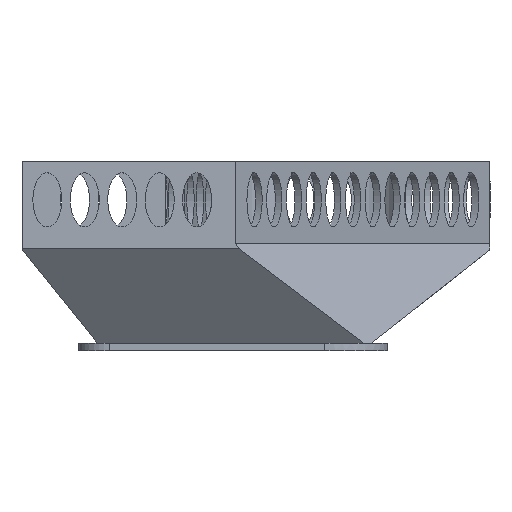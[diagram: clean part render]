
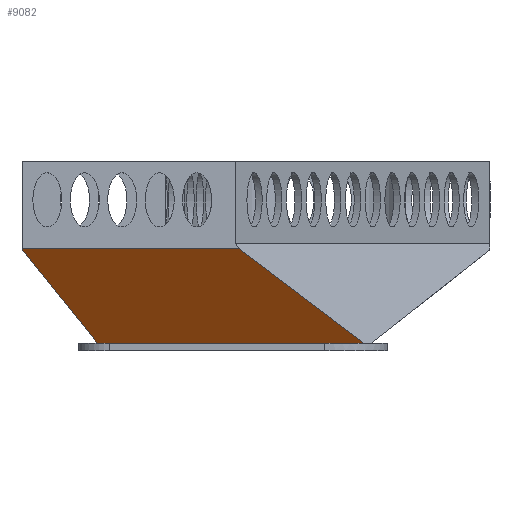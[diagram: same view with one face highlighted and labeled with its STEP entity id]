
A CAD part, left-side view. The second image highlights one B-rep face of the part: STEP entity #9082.
In plain terms, the highlighted planar face has unit normal (-0.788, 0, -0.615).
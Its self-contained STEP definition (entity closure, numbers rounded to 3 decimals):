
#1753=ORIENTED_EDGE('',*,*,#3716,.T.);
#1754=ORIENTED_EDGE('',*,*,#3717,.F.);
#1755=ORIENTED_EDGE('',*,*,#3718,.F.);
#1756=ORIENTED_EDGE('',*,*,#3709,.F.);
#1757=ORIENTED_EDGE('',*,*,#3719,.T.);
#1758=ORIENTED_EDGE('',*,*,#3705,.T.);
#3705=EDGE_CURVE('',#4776,#4777,#5475,.T.);
#3709=EDGE_CURVE('',#4781,#4779,#5479,.T.);
#3716=EDGE_CURVE('',#4777,#4785,#5484,.F.);
#3717=EDGE_CURVE('',#4786,#4785,#5485,.T.);
#3718=EDGE_CURVE('',#4779,#4786,#5486,.T.);
#3719=EDGE_CURVE('',#4781,#4776,#5487,.T.);
#4776=VERTEX_POINT('',#14028);
#4777=VERTEX_POINT('',#14030);
#4779=VERTEX_POINT('',#14035);
#4781=VERTEX_POINT('',#14039);
#4785=VERTEX_POINT('',#14052);
#4786=VERTEX_POINT('',#14056);
#5475=LINE('',#14031,#5960);
#5479=LINE('',#14040,#5964);
#5484=LINE('',#14053,#5969);
#5485=LINE('',#14055,#5970);
#5486=LINE('',#14057,#5971);
#5487=LINE('',#14058,#5972);
#5960=VECTOR('',#11434,1000.);
#5964=VECTOR('',#11440,1000.);
#5969=VECTOR('',#11453,1000.);
#5970=VECTOR('',#11456,1000.);
#5971=VECTOR('',#11457,1000.);
#5972=VECTOR('',#11458,1000.);
#6746=EDGE_LOOP('',(#1753,#1754,#1755,#1756,#1757,#1758));
#8009=FACE_BOUND('',#6746,.T.);
#8821=PLANE('',#9847);
#9082=ADVANCED_FACE('',(#8009),#8821,.T.);
#9847=AXIS2_PLACEMENT_3D('',#14054,#11454,#11455);
#11434=DIRECTION('',(0.,-1.,0.));
#11440=DIRECTION('',(-0.52,0.534,0.667));
#11453=DIRECTION('',(0.426,-0.721,-0.546));
#11454=DIRECTION('',(-0.789,0.,-0.615));
#11455=DIRECTION('',(-0.615,0.,0.789));
#11456=DIRECTION('',(0.,-1.,0.));
#11457=DIRECTION('',(-0.615,0.,0.789));
#11458=DIRECTION('',(0.,-1.,0.));
#14028=CARTESIAN_POINT('',(-204.72,-36.422,0.));
#14030=CARTESIAN_POINT('',(-204.72,-37.897,0.));
#14031=CARTESIAN_POINT('',(-204.72,0.,0.));
#14035=CARTESIAN_POINT('',(-223.673,50.42,24.298));
#14039=CARTESIAN_POINT('',(-204.72,30.982,0.));
#14040=CARTESIAN_POINT('',(-140.726,-34.653,-82.044));
#14052=CARTESIAN_POINT('',(-223.684,-5.805,24.312));
#14053=CARTESIAN_POINT('',(-179.194,-81.095,-32.726));
#14054=CARTESIAN_POINT('',(-127.282,0.,-99.28));
#14055=CARTESIAN_POINT('',(-223.684,-3.58,24.312));
#14056=CARTESIAN_POINT('',(-223.684,50.42,24.312));
#14057=CARTESIAN_POINT('',(-233.93,50.42,37.448));
#14058=CARTESIAN_POINT('',(-204.72,0.,0.));
